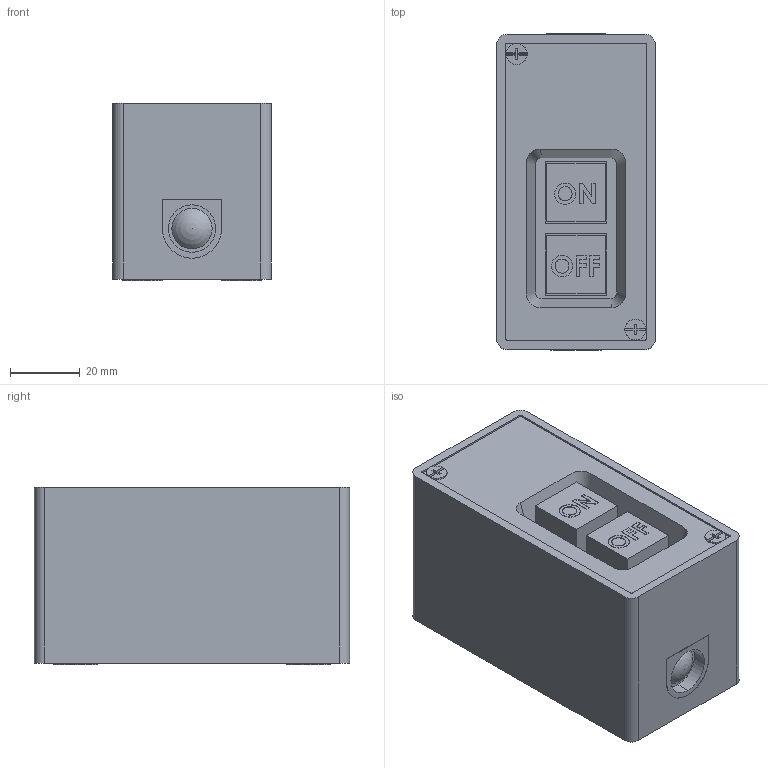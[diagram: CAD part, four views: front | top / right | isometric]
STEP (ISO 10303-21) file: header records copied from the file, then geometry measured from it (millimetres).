
FILE_DESCRIPTION (( 'STEP AP203' ), '1' );
FILE_NAME ('TBSP-330.STEP', '2018-02-07T13:47:52', ( '' ), ( '' ), 'SwSTEP 2.0', 'SolidWorks 2012', '' );
FILE_SCHEMA (( 'CONFIG_CONTROL_DESIGN' ));
Length unit declared in the file: millimetre
Products named in the file (1): TBSP-330
Bounding box: 45.5 x 90.7 x 51 mm (x, y, z)
Volume: 199667 mm3; surface area: 24952.9 mm2
Topology: 1 solids, 1 shells, 190 faces, 501 edges, 338 vertices
Faces by surface type: plane 123, cylinder 45, bspline 20, sphere 2
Entity records: 7230 total; most frequent: CARTESIAN_POINT 2544, ORIENTED_EDGE 990, DIRECTION 877, EDGE_CURVE 495, VECTOR 351, LINE 351, VERTEX_POINT 334, AXIS2_PLACEMENT_3D 263
